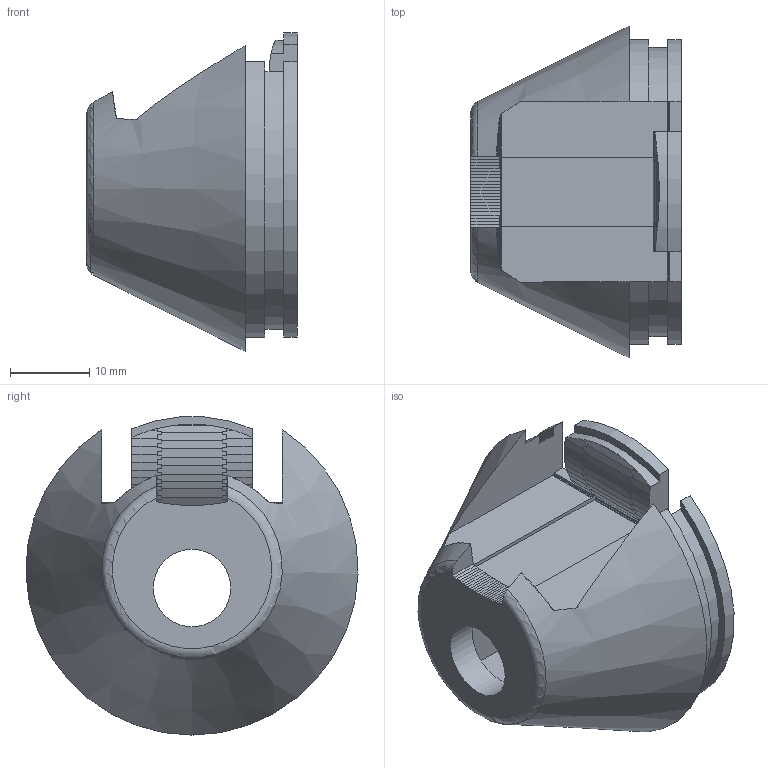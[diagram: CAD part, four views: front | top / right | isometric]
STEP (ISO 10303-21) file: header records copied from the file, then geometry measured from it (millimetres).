
FILE_DESCRIPTION(('Open CASCADE Model'),'2;1');
FILE_NAME('Open CASCADE Shape Model','2026-11-11T07:15:12',('Author'),( 'Open CASCADE'),'Open CASCADE STEP processor 8.0','build123d', 'Unknown');
FILE_SCHEMA(('AUTOMOTIVE_DESIGN { 1 0 10303 214 1 1 1 1 }'));
Length unit declared in the file: millimetre
Products named in the file (1): COMPOUND
Bounding box: 26.59 x 41.98 x 40.24 mm (x, y, z)
Volume: 7981.8 mm3; surface area: 10441.7 mm2
Topology: 1 solids, 1 shells, 337 faces, 998 edges, 666 vertices
Faces by surface type: plane 321, cylinder 12, cone 3, torus 1
Full cylindrical faces by diameter (mm): 9.8 x1
Entity records: 24222 total; most frequent: CARTESIAN_POINT 6413, DIRECTION 2645, ORIENTED_EDGE 1996, PCURVE 1996, DEFINITIONAL_REPRESENTATION 1996, LINE 1647, VECTOR 1647, B_SPLINE_CURVE_WITH_KNOTS 1108
